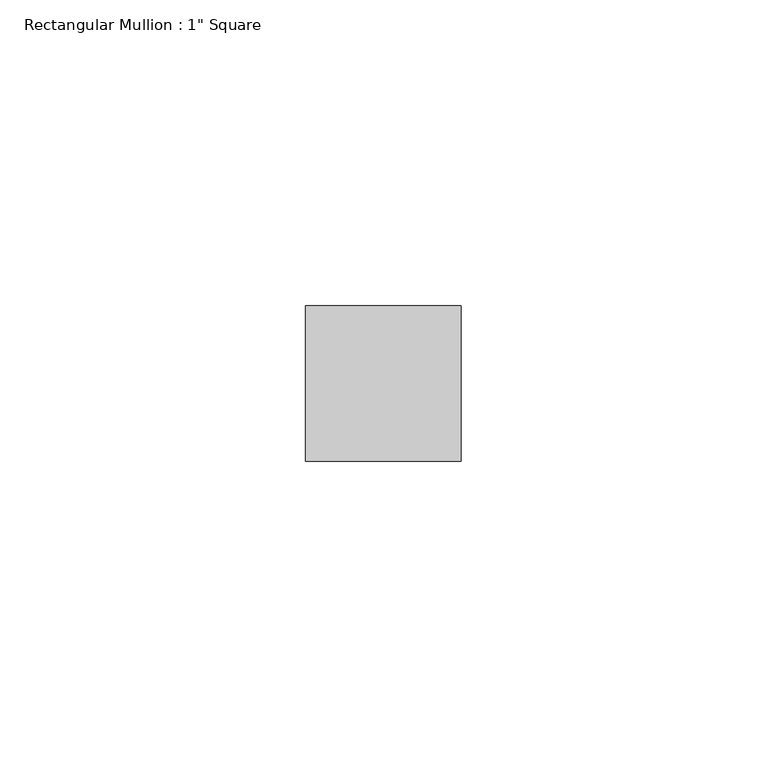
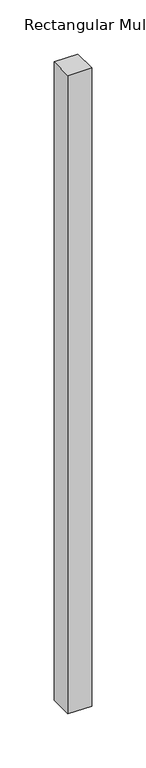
"""IFC4 building model written with IfcOpenShell, lengths in millimetres: member geometry."""

from ifc_helpers import new_model, si_unit, frame, origin, place, context, project, spatial, polyline, outline, extrude, source, transform, mapped, element, save


def member_8553a0c1(model_context):
    return source(origin(), model_context, "Body", "SweptSolid", [
        extrude(outline(polyline([(0.0, 44.45), (0.0, 19.05), (-25.4, 19.05), (-25.4, 44.45), (0.0, 44.45)])), frame((0.0, 0.0, -721.1218748), z_axis=(0.0, 0.0, 1.0), x_axis=(1.0, 0.0, 0.0)), (0.0, 0.0, 1.0), 721.1218748),
    ])


if __name__ == "__main__":
    model = new_model("IFC4")
    model_context = context("Model", 3, world=origin())
    ifc_project = project(units=[si_unit("LENGTHUNIT", "METRE", prefix="MILLI")], contexts=[model_context])
    site = spatial("IfcSite", under=ifc_project)
    building = spatial("IfcBuilding", under=site)
    placement = place(None, origin())
    member_shape = member_8553a0c1(model_context)
    element("IfcMember", 1, ObjectType="Rectangular Mullion : 1\" Square", at=placement, inside=building, context=model_context, shape_type="MappedRepresentation", body=[
        mapped(member_shape, transform((0.0, 0.0, 0.0), x_axis=(1.0, 0.0, 0.0), y_axis=(0.0, 1.0, 0.0), z_axis=(0.0, 0.0, 1.0))),
    ])
    save(model, "model.ifc")
